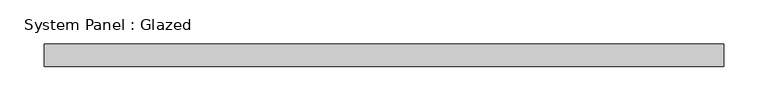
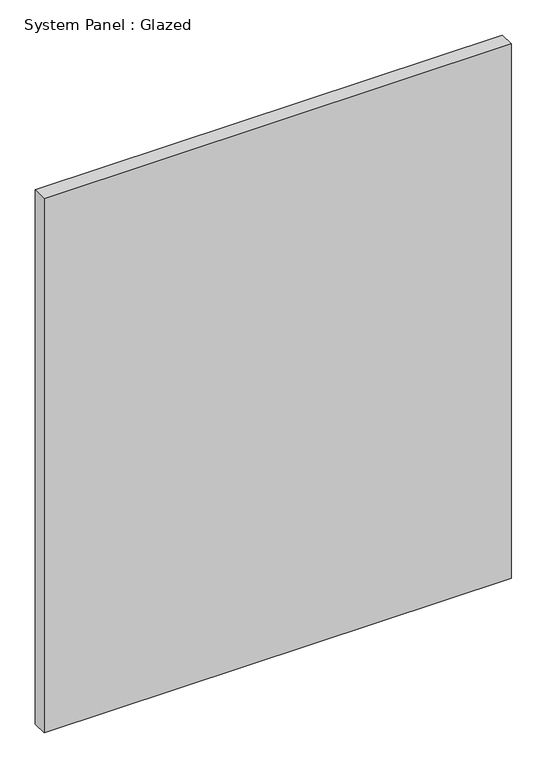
"""IFC4 building model written with IfcOpenShell, lengths in millimetres: plate geometry, System Panel : Glazed."""

from ifc_helpers import new_model, si_unit, origin, origin_with_axes, place, context, project, spatial, polyline, outline, extrude, source, transform, mapped, element, save


def system_panel_glazed_a4d4e721(model_context):
    return source(origin(), model_context, "Body", "SweptSolid", [
        extrude(outline(polyline([(382.7564098, 24.5), (-382.7564098, 24.5), (-382.7564098, 49.5), (382.7564098, 49.5), (382.7564098, 24.5)])), origin_with_axes(), (0.0, 0.0, 1.0), 925.0),
    ])


if __name__ == "__main__":
    model = new_model("IFC4")
    model_context = context("Model", 3, world=origin())
    ifc_project = project(units=[si_unit("LENGTHUNIT", "METRE", prefix="MILLI")], contexts=[model_context])
    site = spatial("IfcSite", under=ifc_project)
    building = spatial("IfcBuilding", under=site)
    placement = place(None, origin())
    system_panel_glazed_shape = system_panel_glazed_a4d4e721(model_context)
    element("IfcPlate", 1, ObjectType="System Panel : Glazed", at=placement, inside=building, context=model_context, shape_type="MappedRepresentation", body=[
        mapped(system_panel_glazed_shape, transform((0.0, 0.0, 0.0), x_axis=(1.0, 0.0, 0.0), y_axis=(0.0, 1.0, 0.0), z_axis=(0.0, 0.0, 1.0))),
    ])
    save(model, "model.ifc")
